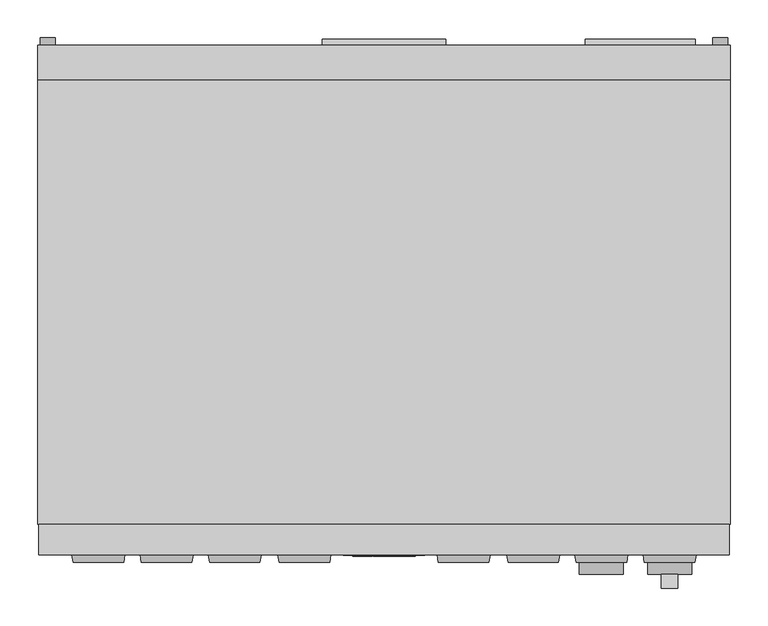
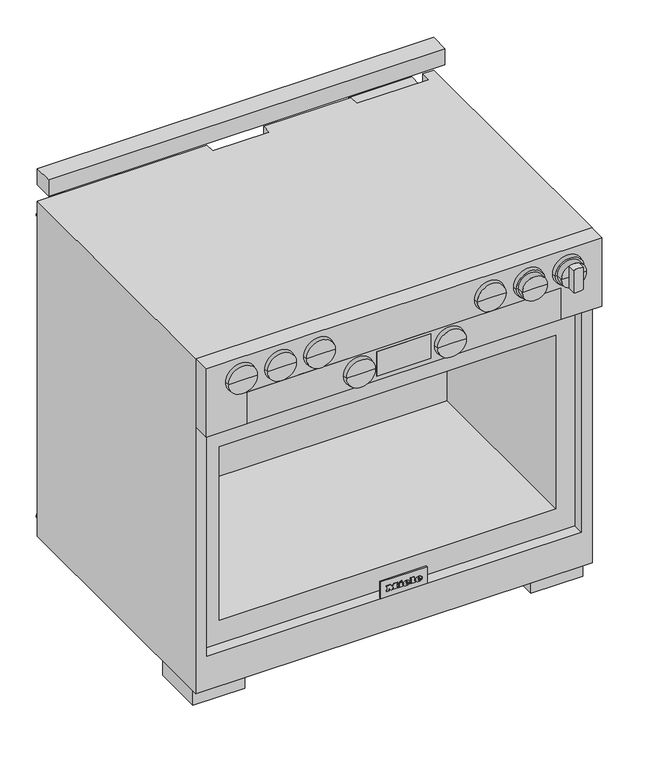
"""IFC4 building model written with IfcOpenShell, lengths in millimetres: proxy geometry, 11791410_USA_HR1134-3G_EDST-CLST : 25113481_USA_11791410_HR1134-3G_EDST-CLST."""

from ifc_helpers import new_model, si_unit, point, frame, frame_2d, origin, origin_with_axes, place, context, project, spatial, polyline, circle_curve, ellipse_curve, trimmed, segment, composite_curve, outline, extrude, faceted_brep, source, transform, mapped, element, save
from ifc_brep_helpers import plane_surface, cylinder_surface, revolved_surface, extruded_surface, advanced_brep


def specialty_equipment_bb1c697a(model_context):
    return source(origin(), model_context, "Body", "SolidModel", [
        advanced_brep(
        [(287.0, -683.0, 813.0), (316.0, -683.0, 813.0), (258.0, -683.0, 813.0), (258.0, -699.0, 813.0), (316.0, -699.0, 813.0), (287.0, -699.0, 813.0)],
        [
            (0, 1),
            (1, 2, circle_curve(frame((287.0, -683.0, 813.0), z_axis=(0.0, 1.0, 0.0), x_axis=(1.0, 0.0, 0.0)), 29.0)),
            (2, 0),
            (2, 1, circle_curve(frame((287.0, -683.0, 813.0), z_axis=(0.0, 1.0, 0.0), x_axis=(1.0, 0.0, 0.0)), 29.0)),
            (3, 4, circle_curve(frame((287.0, -699.0, 813.0), z_axis=(0.0, -1.0, 0.0), x_axis=(1.0, 0.0, 0.0)), 29.0)),
            (4, 5),
            (5, 3),
            (4, 3, circle_curve(frame((287.0, -699.0, 813.0), z_axis=(0.0, -1.0, 0.0), x_axis=(1.0, 0.0, 0.0)), 29.0)),
            (1, 4),
            (3, 2),
        ],
        [
            plane_surface(frame((287.0, -683.0, 813.0), z_axis=(0.0, 1.0, 0.0), x_axis=(1.0, 0.0, 0.0))),
            plane_surface(frame((287.0, -699.0, 813.0), z_axis=(0.0, -1.0, 0.0), x_axis=(1.0, 0.0, 0.0))),
            cylinder_surface(frame((287.0, 751.3738435, 813.0), z_axis=(0.0, 1.0, 0.0), x_axis=(1.0, 0.0, 0.0)), 29.0),
        ],
        [
            (0, [[1, 2, 3]]),
            (0, [[-3, 4, -1]]),
            (1, [[5, 6, 7]]),
            (1, [[8, -7, -6]]),
            (2, [[-2, 9, -5, 10]]),
            (2, [[-4, -10, -8, -9]]),
        ],
    ),
        extrude(outline(composite_curve([segment(polyline([(786.1671843, 388.0), (839.8328157, 388.0)]), True, "CONTINUOUS"), segment(trimmed(circle_curve(frame_2d((813.0, 377.0)), 29.0), [point((839.8328157, 388.0))], [point((839.8328157, 366.0))], False, "CARTESIAN"), True, "CONTINUOUS"), segment(polyline([(839.8328157, 366.0), (786.1671843, 366.0)]), True, "CONTINUOUS"), segment(trimmed(circle_curve(frame_2d((813.0, 377.0)), 29.0), [point((786.1671843, 366.0))], [point((786.1671843, 388.0))], False, "CARTESIAN"), True, "CONTINUOUS")], self_intersect=False)), frame((0.0, -717.0, 0.0), z_axis=(0.0, 1.0, 0.0), x_axis=(0.0, 0.0, 1.0)), (0.0, 0.0, 1.0), 18.0),
        advanced_brep(
        [(377.0, -683.0, 813.0), (406.0, -683.0, 813.0), (348.0, -683.0, 813.0), (348.0, -699.0, 813.0), (406.0, -699.0, 813.0), (377.0, -699.0, 813.0)],
        [
            (0, 1),
            (1, 2, circle_curve(frame((377.0, -683.0, 813.0), z_axis=(0.0, 1.0, 0.0), x_axis=(1.0, 0.0, 0.0)), 29.0)),
            (2, 0),
            (2, 1, circle_curve(frame((377.0, -683.0, 813.0), z_axis=(0.0, 1.0, 0.0), x_axis=(1.0, 0.0, 0.0)), 29.0)),
            (3, 4, circle_curve(frame((377.0, -699.0, 813.0), z_axis=(0.0, -1.0, 0.0), x_axis=(1.0, 0.0, 0.0)), 29.0)),
            (4, 5),
            (5, 3),
            (4, 3, circle_curve(frame((377.0, -699.0, 813.0), z_axis=(0.0, -1.0, 0.0), x_axis=(1.0, 0.0, 0.0)), 29.0)),
            (1, 4),
            (3, 2),
        ],
        [
            plane_surface(frame((377.0, -683.0, 813.0), z_axis=(0.0, 1.0, 0.0), x_axis=(1.0, 0.0, 0.0))),
            plane_surface(frame((377.0, -699.0, 813.0), z_axis=(0.0, -1.0, 0.0), x_axis=(1.0, 0.0, 0.0))),
            cylinder_surface(frame((377.0, 751.3738435, 813.0), z_axis=(0.0, 1.0, 0.0), x_axis=(1.0, 0.0, 0.0)), 29.0),
        ],
        [
            (0, [[1, 2, 3]]),
            (0, [[-3, 4, -1]]),
            (1, [[5, 6, 7]]),
            (1, [[8, -7, -6]]),
            (2, [[-2, 9, -5, 10]]),
            (2, [[-4, -10, -8, -9]]),
        ],
    ),
        extrude(outline(polyline([(-62.5, -671.0), (62.5, -671.0), (62.5, -672.0), (-62.5, -672.0), (-62.5, -671.0)])), frame((0.0, 0.0, 705.0), z_axis=(0.0, 0.0, 1.0), x_axis=(1.0, 0.0, 0.0)), (0.0, 0.0, 1.0), 60.0),
        extrude(outline(polyline([(772.0, 363.0), (772.0, -363.0), (695.0, -363.0), (695.0, 363.0), (772.0, 363.0)]), holes=[polyline([(765.0, 62.5), (705.0, 62.5), (705.0, -62.5), (765.0, -62.5), (765.0, 62.5)])]), frame((0.0, -672.5, 0.0), z_axis=(0.0, 1.0, 0.0), x_axis=(0.0, 0.0, 1.0)), (0.0, 0.0, 1.0), 5.8),
        faceted_brep([(456.0, -673.0, 862.0), (-456.0, -673.0, 862.0), (-456.0, -673.0, 695.0), (-363.0, -673.0, 695.0), (-363.0, -673.0, 772.0), (363.0, -673.0, 772.0), (363.0, -673.0, 695.0), (456.0, -673.0, 695.0), (456.0, -633.0, 862.0), (456.0, -633.0, 695.0), (-456.0, -633.0, 695.0), (-456.0, -633.0, 862.0), (363.0, -666.7, 695.0), (-363.0, -666.7, 695.0), (363.0, -666.7, 772.0), (-363.0, -666.7, 772.0)], [[[0, 1, 2, 3, 4, 5, 6, 7]], [[8, 9, 10, 11]], [[0, 7, 9, 8]], [[10, 9, 7, 6, 12, 13, 3, 2]], [[2, 1, 11, 10]], [[1, 0, 8, 11]], [[14, 15, 13, 12]], [[14, 12, 6, 5]], [[13, 15, 4, 3]], [[15, 14, 5, 4]]]),
        advanced_brep(
        [(-138.2367302, -683.0, 733.0), (-71.7632698, -683.0, 733.0), (-105.0, -683.0, 733.0), (-140.0, -673.0, 733.0), (-70.0, -673.0, 733.0), (-105.0, -673.0, 733.0)],
        [
            (0, 1, circle_curve(frame((-105.0, -683.0, 733.0), z_axis=(0.0, -1.0, 0.0), x_axis=(1.0, 0.0, 0.0)), 33.2367302)),
            (1, 2),
            (2, 0),
            (1, 0, circle_curve(frame((-105.0, -683.0, 733.0), z_axis=(0.0, -1.0, 0.0), x_axis=(1.0, 0.0, 0.0)), 33.2367302)),
            (3, 4, circle_curve(frame((-105.0, -673.0, 733.0), z_axis=(0.0, -1.0, 0.0), x_axis=(1.0, 0.0, 0.0)), 35.0)),
            (4, 1),
            (0, 3),
            (4, 3, circle_curve(frame((-105.0, -673.0, 733.0), z_axis=(0.0, -1.0, 0.0), x_axis=(1.0, 0.0, 0.0)), 35.0)),
            (5, 4),
            (3, 5),
        ],
        [
            plane_surface(frame((-105.0, -683.0, 733.0), z_axis=(0.0, -1.0, 0.0), x_axis=(1.0, 0.0, 0.0))),
            revolved_surface(polyline([(-71.7632698, -683.0, 733.0), (-70.0, -673.0, 733.0)]), (-105.0, 751.3738435, 733.0), (0.0, 1.0, 0.0)),
            plane_surface(frame((-105.0, -673.0, 733.0), z_axis=(0.0, 1.0, 0.0), x_axis=(1.0, 0.0, 0.0))),
        ],
        [
            (0, [[1, 2, 3]]),
            (0, [[4, -3, -2]]),
            (1, [[5, 6, -1, 7]]),
            (1, [[8, -7, -4, -6]]),
            (2, [[9, -5, 10]]),
            (2, [[-10, -8, -9]]),
        ],
    ),
        advanced_brep(
        [(71.7632698, -683.0, 733.0), (138.2367302, -683.0, 733.0), (105.0, -683.0, 733.0), (70.0, -673.0, 733.0), (140.0, -673.0, 733.0), (105.0, -673.0, 733.0)],
        [
            (0, 1, circle_curve(frame((105.0, -683.0, 733.0), z_axis=(0.0, -1.0, 0.0), x_axis=(1.0, 0.0, 0.0)), 33.2367302)),
            (1, 2),
            (2, 0),
            (1, 0, circle_curve(frame((105.0, -683.0, 733.0), z_axis=(0.0, -1.0, 0.0), x_axis=(1.0, 0.0, 0.0)), 33.2367302)),
            (3, 4, circle_curve(frame((105.0, -673.0, 733.0), z_axis=(0.0, -1.0, 0.0), x_axis=(1.0, 0.0, 0.0)), 35.0)),
            (4, 1),
            (0, 3),
            (4, 3, circle_curve(frame((105.0, -673.0, 733.0), z_axis=(0.0, -1.0, 0.0), x_axis=(1.0, 0.0, 0.0)), 35.0)),
            (5, 4),
            (3, 5),
        ],
        [
            plane_surface(frame((105.0, -683.0, 733.0), z_axis=(0.0, -1.0, 0.0), x_axis=(1.0, 0.0, 0.0))),
            revolved_surface(polyline([(138.2367302, -683.0, 733.0), (140.0, -673.0, 733.0)]), (105.0, 751.3738435, 733.0), (0.0, 1.0, 0.0)),
            plane_surface(frame((105.0, -673.0, 733.0), z_axis=(0.0, 1.0, 0.0), x_axis=(1.0, 0.0, 0.0))),
        ],
        [
            (0, [[1, 2, 3]]),
            (0, [[4, -3, -2]]),
            (1, [[5, 6, -1, 7]]),
            (1, [[8, -7, -4, -6]]),
            (2, [[9, -5, 10]]),
            (2, [[-10, -8, -9]]),
        ],
    ),
        advanced_brep(
        [(-230.2367302, -683.0, 813.0), (-163.7632698, -683.0, 813.0), (-197.0, -683.0, 813.0), (-232.0, -673.0, 813.0), (-162.0, -673.0, 813.0), (-197.0, -673.0, 813.0)],
        [
            (0, 1, circle_curve(frame((-197.0, -683.0, 813.0), z_axis=(0.0, -1.0, 0.0), x_axis=(1.0, 0.0, 0.0)), 33.2367302)),
            (1, 2),
            (2, 0),
            (1, 0, circle_curve(frame((-197.0, -683.0, 813.0), z_axis=(0.0, -1.0, 0.0), x_axis=(1.0, 0.0, 0.0)), 33.2367302)),
            (3, 4, circle_curve(frame((-197.0, -673.0, 813.0), z_axis=(0.0, -1.0, 0.0), x_axis=(1.0, 0.0, 0.0)), 35.0)),
            (4, 1),
            (0, 3),
            (4, 3, circle_curve(frame((-197.0, -673.0, 813.0), z_axis=(0.0, -1.0, 0.0), x_axis=(1.0, 0.0, 0.0)), 35.0)),
            (5, 4),
            (3, 5),
        ],
        [
            plane_surface(frame((-197.0, -683.0, 813.0), z_axis=(0.0, -1.0, 0.0), x_axis=(1.0, 0.0, 0.0))),
            revolved_surface(polyline([(-163.7632698, -683.0, 813.0), (-162.0, -673.0, 813.0)]), (-197.0, 751.3738435, 813.0), (0.0, 1.0, 0.0)),
            plane_surface(frame((-197.0, -673.0, 813.0), z_axis=(0.0, 1.0, 0.0), x_axis=(1.0, 0.0, 0.0))),
        ],
        [
            (0, [[1, 2, 3]]),
            (0, [[4, -3, -2]]),
            (1, [[5, 6, -1, 7]]),
            (1, [[8, -7, -4, -6]]),
            (2, [[9, -5, 10]]),
            (2, [[-10, -8, -9]]),
        ],
    ),
        advanced_brep(
        [(-410.2367302, -683.0, 813.0), (-343.7632698, -683.0, 813.0), (-377.0, -683.0, 813.0), (-412.0, -673.0, 813.0), (-342.0, -673.0, 813.0), (-377.0, -673.0, 813.0)],
        [
            (0, 1, circle_curve(frame((-377.0, -683.0, 813.0), z_axis=(0.0, -1.0, 0.0), x_axis=(1.0, 0.0, 0.0)), 33.2367302)),
            (1, 2),
            (2, 0),
            (1, 0, circle_curve(frame((-377.0, -683.0, 813.0), z_axis=(0.0, -1.0, 0.0), x_axis=(1.0, 0.0, 0.0)), 33.2367302)),
            (3, 4, circle_curve(frame((-377.0, -673.0, 813.0), z_axis=(0.0, -1.0, 0.0), x_axis=(1.0, 0.0, 0.0)), 35.0)),
            (4, 1),
            (0, 3),
            (4, 3, circle_curve(frame((-377.0, -673.0, 813.0), z_axis=(0.0, -1.0, 0.0), x_axis=(1.0, 0.0, 0.0)), 35.0)),
            (5, 4),
            (3, 5),
        ],
        [
            plane_surface(frame((-377.0, -683.0, 813.0), z_axis=(0.0, -1.0, 0.0), x_axis=(1.0, 0.0, 0.0))),
            revolved_surface(polyline([(-343.7632698, -683.0, 813.0), (-342.0, -673.0, 813.0)]), (-377.0, 751.3738435, 813.0), (0.0, 1.0, 0.0)),
            plane_surface(frame((-377.0, -673.0, 813.0), z_axis=(0.0, 1.0, 0.0), x_axis=(1.0, 0.0, 0.0))),
        ],
        [
            (0, [[1, 2, 3]]),
            (0, [[4, -3, -2]]),
            (1, [[5, 6, -1, 7]]),
            (1, [[8, -7, -4, -6]]),
            (2, [[9, -5, 10]]),
            (2, [[-10, -8, -9]]),
        ],
    ),
        advanced_brep(
        [(-320.2367302, -683.0, 813.0), (-253.7632698, -683.0, 813.0), (-287.0, -683.0, 813.0), (-322.0, -673.0, 813.0), (-252.0, -673.0, 813.0), (-287.0, -673.0, 813.0)],
        [
            (0, 1, circle_curve(frame((-287.0, -683.0, 813.0), z_axis=(0.0, -1.0, 0.0), x_axis=(1.0, 0.0, 0.0)), 33.2367302)),
            (1, 2),
            (2, 0),
            (1, 0, circle_curve(frame((-287.0, -683.0, 813.0), z_axis=(0.0, -1.0, 0.0), x_axis=(1.0, 0.0, 0.0)), 33.2367302)),
            (3, 4, circle_curve(frame((-287.0, -673.0, 813.0), z_axis=(0.0, -1.0, 0.0), x_axis=(1.0, 0.0, 0.0)), 35.0)),
            (4, 1),
            (0, 3),
            (4, 3, circle_curve(frame((-287.0, -673.0, 813.0), z_axis=(0.0, -1.0, 0.0), x_axis=(1.0, 0.0, 0.0)), 35.0)),
            (5, 4),
            (3, 5),
        ],
        [
            plane_surface(frame((-287.0, -683.0, 813.0), z_axis=(0.0, -1.0, 0.0), x_axis=(1.0, 0.0, 0.0))),
            revolved_surface(polyline([(-253.7632698, -683.0, 813.0), (-252.0, -673.0, 813.0)]), (-287.0, 751.3738435, 813.0), (0.0, 1.0, 0.0)),
            plane_surface(frame((-287.0, -673.0, 813.0), z_axis=(0.0, 1.0, 0.0), x_axis=(1.0, 0.0, 0.0))),
        ],
        [
            (0, [[1, 2, 3]]),
            (0, [[4, -3, -2]]),
            (1, [[5, 6, -1, 7]]),
            (1, [[8, -7, -4, -6]]),
            (2, [[9, -5, 10]]),
            (2, [[-10, -8, -9]]),
        ],
    ),
        advanced_brep(
        [(163.7632698, -683.0, 813.0), (230.2367302, -683.0, 813.0), (197.0, -683.0, 813.0), (162.0, -673.0, 813.0), (232.0, -673.0, 813.0), (197.0, -673.0, 813.0)],
        [
            (0, 1, circle_curve(frame((197.0, -683.0, 813.0), z_axis=(0.0, -1.0, 0.0), x_axis=(1.0, 0.0, 0.0)), 33.2367302)),
            (1, 2),
            (2, 0),
            (1, 0, circle_curve(frame((197.0, -683.0, 813.0), z_axis=(0.0, -1.0, 0.0), x_axis=(1.0, 0.0, 0.0)), 33.2367302)),
            (3, 4, circle_curve(frame((197.0, -673.0, 813.0), z_axis=(0.0, -1.0, 0.0), x_axis=(1.0, 0.0, 0.0)), 35.0)),
            (4, 1),
            (0, 3),
            (4, 3, circle_curve(frame((197.0, -673.0, 813.0), z_axis=(0.0, -1.0, 0.0), x_axis=(1.0, 0.0, 0.0)), 35.0)),
            (5, 4),
            (3, 5),
        ],
        [
            plane_surface(frame((197.0, -683.0, 813.0), z_axis=(0.0, -1.0, 0.0), x_axis=(1.0, 0.0, 0.0))),
            revolved_surface(polyline([(230.2367302, -683.0, 813.0), (232.0, -673.0, 813.0)]), (197.0, 751.3738435, 813.0), (0.0, 1.0, 0.0)),
            plane_surface(frame((197.0, -673.0, 813.0), z_axis=(0.0, 1.0, 0.0), x_axis=(1.0, 0.0, 0.0))),
        ],
        [
            (0, [[1, 2, 3]]),
            (0, [[4, -3, -2]]),
            (1, [[5, 6, -1, 7]]),
            (1, [[8, -7, -4, -6]]),
            (2, [[9, -5, 10]]),
            (2, [[-10, -8, -9]]),
        ],
    ),
        advanced_brep(
        [(253.7632698, -683.0, 813.0), (320.2367302, -683.0, 813.0), (287.0, -683.0, 813.0), (252.0, -673.0, 813.0), (322.0, -673.0, 813.0), (287.0, -673.0, 813.0)],
        [
            (0, 1, circle_curve(frame((287.0, -683.0, 813.0), z_axis=(0.0, -1.0, 0.0), x_axis=(1.0, 0.0, 0.0)), 33.2367302)),
            (1, 2),
            (2, 0),
            (1, 0, circle_curve(frame((287.0, -683.0, 813.0), z_axis=(0.0, -1.0, 0.0), x_axis=(1.0, 0.0, 0.0)), 33.2367302)),
            (3, 4, circle_curve(frame((287.0, -673.0, 813.0), z_axis=(0.0, -1.0, 0.0), x_axis=(1.0, 0.0, 0.0)), 35.0)),
            (4, 1),
            (0, 3),
            (4, 3, circle_curve(frame((287.0, -673.0, 813.0), z_axis=(0.0, -1.0, 0.0), x_axis=(1.0, 0.0, 0.0)), 35.0)),
            (5, 4),
            (3, 5),
        ],
        [
            plane_surface(frame((287.0, -683.0, 813.0), z_axis=(0.0, -1.0, 0.0), x_axis=(1.0, 0.0, 0.0))),
            revolved_surface(polyline([(320.2367302, -683.0, 813.0), (322.0, -673.0, 813.0)]), (287.0, 751.3738435, 813.0), (0.0, 1.0, 0.0)),
            plane_surface(frame((287.0, -673.0, 813.0), z_axis=(0.0, 1.0, 0.0), x_axis=(1.0, 0.0, 0.0))),
        ],
        [
            (0, [[1, 2, 3]]),
            (0, [[4, -3, -2]]),
            (1, [[5, 6, -1, 7]]),
            (1, [[8, -7, -4, -6]]),
            (2, [[9, -5, 10]]),
            (2, [[-10, -8, -9]]),
        ],
    ),
        advanced_brep(
        [(343.7632698, -683.0, 813.0), (410.2367302, -683.0, 813.0), (377.0, -683.0, 813.0), (342.0, -673.0, 813.0), (412.0, -673.0, 813.0), (377.0, -673.0, 813.0)],
        [
            (0, 1, circle_curve(frame((377.0, -683.0, 813.0), z_axis=(0.0, -1.0, 0.0), x_axis=(1.0, 0.0, 0.0)), 33.2367302)),
            (1, 2),
            (2, 0),
            (1, 0, circle_curve(frame((377.0, -683.0, 813.0), z_axis=(0.0, -1.0, 0.0), x_axis=(1.0, 0.0, 0.0)), 33.2367302)),
            (3, 4, circle_curve(frame((377.0, -673.0, 813.0), z_axis=(0.0, -1.0, 0.0), x_axis=(1.0, 0.0, 0.0)), 35.0)),
            (4, 1),
            (0, 3),
            (4, 3, circle_curve(frame((377.0, -673.0, 813.0), z_axis=(0.0, -1.0, 0.0), x_axis=(1.0, 0.0, 0.0)), 35.0)),
            (5, 4),
            (3, 5),
        ],
        [
            plane_surface(frame((377.0, -683.0, 813.0), z_axis=(0.0, -1.0, 0.0), x_axis=(1.0, 0.0, 0.0))),
            revolved_surface(polyline([(410.2367302, -683.0, 813.0), (412.0, -673.0, 813.0)]), (377.0, 751.3738435, 813.0), (0.0, 1.0, 0.0)),
            plane_surface(frame((377.0, -673.0, 813.0), z_axis=(0.0, 1.0, 0.0), x_axis=(1.0, 0.0, 0.0))),
        ],
        [
            (0, [[1, 2, 3]]),
            (0, [[4, -3, -2]]),
            (1, [[5, 6, -1, 7]]),
            (1, [[8, -7, -4, -6]]),
            (2, [[9, -5, 10]]),
            (2, [[-10, -8, -9]]),
        ],
    ),
        extrude(outline(composite_curve([segment(trimmed(circle_curve(frame_2d((822.0, 444.0)), 10.0), [point((822.0, 454.0))], [point((822.0, 434.0))], False, "CARTESIAN"), True, "CONTINUOUS"), segment(trimmed(circle_curve(frame_2d((822.0, 444.0)), 10.0), [point((822.0, 434.0))], [point((822.0, 454.0))], False, "CARTESIAN"), True, "CONTINUOUS")], self_intersect=False)), frame((0.0, 0.0, 0.0), z_axis=(0.0, 1.0, 0.0), x_axis=(0.0, 0.0, 1.0)), (0.0, 0.0, 1.0), 10.0),
        extrude(outline(composite_curve([segment(trimmed(circle_curve(frame_2d((87.0, 444.0)), 10.0), [point((87.0, 454.0))], [point((87.0, 434.0))], False, "CARTESIAN"), True, "CONTINUOUS"), segment(trimmed(circle_curve(frame_2d((87.0, 444.0)), 10.0), [point((87.0, 434.0))], [point((87.0, 454.0))], False, "CARTESIAN"), True, "CONTINUOUS")], self_intersect=False)), frame((0.0, 0.0, 0.0), z_axis=(0.0, 1.0, 0.0), x_axis=(0.0, 0.0, 1.0)), (0.0, 0.0, 1.0), 10.0),
        extrude(outline(composite_curve([segment(trimmed(circle_curve(frame_2d((822.0, -444.0)), 10.0), [point((822.0, -434.0))], [point((822.0, -454.0))], False, "CARTESIAN"), True, "CONTINUOUS"), segment(trimmed(circle_curve(frame_2d((822.0, -444.0)), 10.0), [point((822.0, -454.0))], [point((822.0, -434.0))], False, "CARTESIAN"), True, "CONTINUOUS")], self_intersect=False)), frame((0.0, 0.0, 0.0), z_axis=(0.0, 1.0, 0.0), x_axis=(0.0, 0.0, 1.0)), (0.0, 0.0, 1.0), 10.0),
        extrude(outline(composite_curve([segment(trimmed(circle_curve(frame_2d((87.0, -444.0)), 10.0), [point((87.0, -434.0))], [point((87.0, -454.0))], False, "CARTESIAN"), True, "CONTINUOUS"), segment(trimmed(circle_curve(frame_2d((87.0, -444.0)), 10.0), [point((87.0, -454.0))], [point((87.0, -434.0))], False, "CARTESIAN"), True, "CONTINUOUS")], self_intersect=False)), frame((0.0, 0.0, 0.0), z_axis=(0.0, 1.0, 0.0), x_axis=(0.0, 0.0, 1.0)), (0.0, 0.0, 1.0), 10.0),
        extrude(outline(polyline([(-258.0, 0.0), (170.0, 0.0), (170.0, -39.0), (-258.0, -39.0), (-258.0, 0.0)])), frame((0.0, 0.0, 117.0), z_axis=(0.0, 0.0, 1.0), x_axis=(1.0, 0.0, 0.0)), (0.0, 0.0, 1.0), 15.0),
        extrude(outline(polyline([(284.0, -23.0), (405.0, -23.0), (405.0, -53.0), (284.0, -53.0), (284.0, -23.0)])), frame((0.0, 0.0, 117.0), z_axis=(0.0, 0.0, 1.0), x_axis=(1.0, 0.0, 0.0)), (0.0, 0.0, 1.0), 15.0),
        extrude(outline(polyline([(266.0, 8.0), (411.0, 8.0), (411.0, -23.0), (266.0, -23.0), (266.0, 8.0)])), frame((0.0, 0.0, 742.0), z_axis=(0.0, 0.0, 1.0), x_axis=(1.0, 0.0, 0.0)), (0.0, 0.0, 1.0), 115.0),
        extrude(outline(polyline([(-81.5, 8.0), (81.5, 8.0), (81.5, 0.0), (-81.5, 0.0), (-81.5, 8.0)])), frame((0.0, 0.0, 559.0), z_axis=(0.0, 0.0, 1.0), x_axis=(1.0, 0.0, 0.0)), (0.0, 0.0, 1.0), 237.0),
        extrude(outline(composite_curve([segment(trimmed(circle_curve(frame_2d((-152.0, 39.6862697)), 39.6862697), [point((-112.6710759, 45.0))], [point((-191.3289241, 45.0))], False, "CARTESIAN"), True, "CONTINUOUS"), segment(polyline([(-191.3289241, 45.0), (-112.6710759, 45.0)]), True, "CONTINUOUS")], self_intersect=False)), frame((282.0, 0.0, 0.0), z_axis=(1.0, 0.0, 0.0), x_axis=(0.0, 1.0, 0.0)), (0.0, 0.0, 1.0), 28.0),
        extrude(outline(composite_curve([segment(polyline([(-366.0009008, -40.0), (-367.2635363, -40.0), (-367.0191787, -38.9415709), (-366.8778726, -34.1117735)]), True, "CONTINUOUS"), segment(trimmed(circle_curve(frame_2d((-365.387549, -34.1553762)), 1.4909613), [point((-366.8778726, -34.1117735))], [point((-365.6381402, -32.6856246))], False, "CARTESIAN"), True, "CONTINUOUS"), segment(trimmed(circle_curve(frame_2d((-364.1175682, -37.7832301)), 5.3195602), [point((-365.6381402, -32.6856246))], [point((-362.440667, -32.7348914))], False, "CARTESIAN"), True, "CONTINUOUS"), segment(polyline([(-362.440667, -32.7348914), (-361.3643767, -33.4338425), (-360.8177226, -34.6616478), (-362.0710839, -34.8155412), (-362.6628147, -33.9704619)]), True, "CONTINUOUS"), segment(trimmed(circle_curve(frame_2d((-363.889909, -36.6278559)), 2.9270297), [point((-362.6628147, -33.9704619))], [point((-365.335883, -34.0829271))], True, "CARTESIAN"), True, "CONTINUOUS"), segment(polyline([(-365.335883, -34.0829271), (-365.6819155, -35.289686), (-362.4250607, -35.9227545)]), True, "CONTINUOUS"), segment(trimmed(circle_curve(frame_2d((-362.8373847, -38.0439776)), 2.1609254), [point((-362.4250607, -35.9227545))], [point((-361.2872437, -39.5495212))], False, "CARTESIAN"), True, "CONTINUOUS"), segment(trimmed(circle_curve(frame_2d((-363.2230106, -36.6941434)), 3.4496922), [point((-361.2872437, -39.5495212))], [point((-364.4810512, -39.9062626))], False, "CARTESIAN"), True, "CONTINUOUS"), segment(polyline([(-364.4810512, -39.9062626), (-365.6943945, -39.0566705), (-366.0009008, -40.0)]), True, "CONTINUOUS")], self_intersect=False), holes=[composite_curve([segment(polyline([(-365.6808047, -36.7241112), (-365.4778117, -37.8753414), (-364.6808418, -38.5929363), (-363.3846505, -38.8921857)]), True, "CONTINUOUS"), segment(trimmed(circle_curve(frame_2d((-363.1641539, -37.9371101)), 0.980198), [point((-363.3846505, -38.8921857))], [point((-362.5826105, -37.148063))], True, "CARTESIAN"), True, "CONTINUOUS"), segment(polyline([(-362.5826105, -37.148063), (-363.683896, -36.9339948), (-365.6808047, -36.7241112)]), True, "CONTINUOUS")], self_intersect=False)]), frame((0.0, 0.0, 753.0), z_axis=(0.0, 0.0, 1.0), x_axis=(1.0, 0.0, 0.0)), (0.0, 0.0, 1.0), 1.0),
        extrude(outline(composite_curve([segment(polyline([(-369.4581842, -37.6489066), (-368.202206, -37.8031213), (-369.1593436, -39.5606642)]), True, "CONTINUOUS"), segment(trimmed(circle_curve(frame_2d((-371.3057471, -36.6354063)), 3.6282478), [point((-369.1593436, -39.5606642))], [point((-372.8962663, -39.8964538))], False, "CARTESIAN"), True, "CONTINUOUS"), segment(trimmed(circle_curve(frame_2d((-371.7731504, -37.593725)), 2.5620205), [point((-372.8962663, -39.8964538))], [point((-374.32893, -37.7724425))], False, "CARTESIAN"), True, "CONTINUOUS"), segment(trimmed(circle_curve(frame_2d((-372.617737, -37.6527843)), 1.7153715), [point((-374.32893, -37.7724425))], [point((-373.147816, -36.021369))], False, "CARTESIAN"), True, "CONTINUOUS"), segment(polyline([(-373.147816, -36.021369), (-371.3069947, -35.4232499), (-369.987673, -33.9770867)]), True, "CONTINUOUS"), segment(trimmed(circle_curve(frame_2d((-371.1408399, -36.351197)), 2.6393548), [point((-369.987673, -33.9770867))], [point((-372.2940069, -33.9770867))], True, "CARTESIAN"), True, "CONTINUOUS"), segment(polyline([(-372.2940069, -33.9770867), (-372.7553884, -34.6611129), (-374.0084996, -34.5072502), (-373.5756304, -33.3795875)]), True, "CONTINUOUS"), segment(trimmed(circle_curve(frame_2d((-370.9527143, -36.6576461)), 4.1982564), [point((-373.5756304, -33.3795875))], [point((-371.0505395, -32.4605295))], False, "CARTESIAN"), True, "CONTINUOUS"), segment(trimmed(circle_curve(frame_2d((-370.9805679, -35.4626064)), 3.0028922), [point((-371.0505395, -32.4605295))], [point((-368.5718203, -33.6694816))], False, "CARTESIAN"), True, "CONTINUOUS"), segment(trimmed(circle_curve(frame_2d((-370.4380028, -34.5301363)), 2.0550823), [point((-368.5718203, -33.6694816))], [point((-369.4341096, -36.323335))], False, "CARTESIAN"), True, "CONTINUOUS"), segment(polyline([(-369.4341096, -36.323335), (-371.3494535, -36.9828408), (-373.0597255, -37.9076387), (-372.6768706, -38.6156702)]), True, "CONTINUOUS"), segment(trimmed(circle_curve(frame_2d((-371.3695779, -35.6018954)), 3.2850956), [point((-372.6768706, -38.6156702))], [point((-370.0622852, -38.6156702))], True, "CARTESIAN"), True, "CONTINUOUS"), segment(polyline([(-370.0622852, -38.6156702), (-369.4581842, -37.6489066)]), True, "CONTINUOUS")], self_intersect=False)), frame((0.0, 0.0, 753.0), z_axis=(0.0, 0.0, 1.0), x_axis=(1.0, 0.0, 0.0)), (0.0, 0.0, 1.0), 1.0),
        extrude(outline(composite_curve([segment(polyline([(-359.0941465, -34.8216074), (-355.0193946, -34.8216074), (-355.0193946, -36.0727848), (-357.8300756, -36.0727848), (-357.8300756, -37.8953779), (-356.5547934, -38.5734575), (-354.8554891, -38.8730907)]), True, "CONTINUOUS"), segment(trimmed(circle_curve(frame_2d((-354.7763582, -35.1835188)), 3.6904203), [point((-354.8554891, -38.8730907))], [point((-351.0917956, -34.975672))], True, "CARTESIAN"), True, "CONTINUOUS"), segment(trimmed(circle_curve(frame_2d((-355.2742118, -35.2116028)), 4.1890654), [point((-351.0917956, -34.975672))], [point((-354.8924604, -31.0399683))], True, "CARTESIAN"), True, "CONTINUOUS"), segment(trimmed(circle_curve(frame_2d((-355.1434541, -33.7827322)), 2.7542243), [point((-354.8924604, -31.0399683))], [point((-357.2311401, -31.9862582))], True, "CARTESIAN"), True, "CONTINUOUS"), segment(polyline([(-357.2311401, -31.9862582), (-357.7913432, -33.1348449), (-358.9545959, -32.808521), (-358.2222817, -31.1459412)]), True, "CONTINUOUS"), segment(trimmed(circle_curve(frame_2d((-355.0056573, -34.3038983)), 4.5077007), [point((-358.2222817, -31.1459412))], [point((-354.8478593, -29.7989604))], False, "CARTESIAN"), True, "CONTINUOUS"), segment(trimmed(circle_curve(frame_2d((-355.0297107, -35.0029797)), 5.2071956), [point((-354.8478593, -29.7989604))], [point((-349.8225151, -35.0029797))], False, "CARTESIAN"), True, "CONTINUOUS"), segment(trimmed(circle_curve(frame_2d((-355.0187023, -34.9634409)), 5.1963376), [point((-349.8225151, -35.0029797))], [point((-355.0187023, -40.1597785))], False, "CARTESIAN"), True, "CONTINUOUS"), segment(polyline([(-355.0187023, -40.1597785), (-357.0821579, -39.7823822), (-359.0941465, -38.5734575), (-359.0941465, -34.8216074)]), True, "CONTINUOUS")], self_intersect=False)), frame((0.0, 0.0, 753.0), z_axis=(0.0, 0.0, 1.0), x_axis=(1.0, 0.0, 0.0)), (0.0, 0.0, 1.0), 1.0),
        extrude(outline(polyline([(246.4261097, -48.2846028), (239.1553153, -48.2846028), (239.1553153, -47.0259878), (245.1324687, -47.0259878), (245.1324687, -44.0398896), (239.4699511, -44.0398896), (239.4699511, -42.7868997), (245.1324687, -42.7868997), (245.1324687, -39.484481), (239.0234692, -39.484481), (239.0234692, -38.223126), (246.4261097, -38.223126), (246.4261097, -48.2846028)])), frame((0.0, 0.0, 101.0), z_axis=(0.0, 0.0, 1.0), x_axis=(1.0, 0.0, 0.0)), (0.0, 0.0, 1.0), 1.0),
        extrude(outline(polyline([(237.0939455, -48.2781045), (230.9083542, -48.2781045), (230.9083542, -47.0259878), (235.9083542, -47.0259878), (235.9083542, -38.223126), (237.0939455, -38.223126), (237.0939455, -48.2781045)])), frame((0.0, 0.0, 101.0), z_axis=(0.0, 0.0, 1.0), x_axis=(1.0, 0.0, 0.0)), (0.0, 0.0, 1.0), 1.0),
        extrude(outline(composite_curve([segment(trimmed(circle_curve(frame_2d((239.0, -44.0)), 7.5), [point((239.0, -51.5))], [point((239.0, -36.5))], False, "CARTESIAN"), True, "CONTINUOUS"), segment(trimmed(circle_curve(frame_2d((239.0, -44.0)), 7.5), [point((239.0, -36.5))], [point((239.0, -51.5))], False, "CARTESIAN"), True, "CONTINUOUS")], self_intersect=False)), frame((0.0, 0.0, 102.0), z_axis=(0.0, 0.0, 1.0), x_axis=(1.0, 0.0, 0.0)), (0.0, 0.0, 1.0), 30.0),
        extrude(outline(composite_curve([segment(trimmed(circle_curve(frame_2d((-362.0, -35.0)), 7.5), [point((-369.5, -35.0))], [point((-354.5, -35.0))], False, "CARTESIAN"), True, "CONTINUOUS"), segment(trimmed(circle_curve(frame_2d((-362.0, -35.0)), 7.5), [point((-354.5, -35.0))], [point((-369.5, -35.0))], False, "CARTESIAN"), True, "CONTINUOUS")], self_intersect=False)), frame((0.0, 0.0, 754.0), z_axis=(0.0, 0.0, 1.0), x_axis=(1.0, 0.0, 0.0)), (0.0, 0.0, 1.0), 30.0),
        faceted_brep([(-457.0, 0.0, 862.0), (-457.0, -633.0, 862.0), (457.0, -633.0, 862.0), (457.0, 0.0, 862.0), (432.0, 0.0, 862.0), (432.0, -23.0, 862.0), (266.0, -23.0, 862.0), (266.0, 0.0, 862.0), (65.0, 0.0, 862.0), (65.0, -23.0, 862.0), (-66.0, -23.0, 862.0), (-66.0, 0.0, 862.0), (457.0, 0.0, 45.0), (457.0, -633.0, 45.0), (-457.0, -633.0, 45.0), (-457.0, 0.0, 45.0), (-432.0, 0.0, 45.0), (-432.0, -75.0, 45.0), (432.0, -75.0, 45.0), (432.0, 0.0, 45.0), (266.0, 0.0, 132.0), (65.0, 0.0, 132.0), (-66.0, 0.0, 132.0), (-270.0, 0.0, 132.0), (-270.0, 0.0, 784.0), (-411.0, 0.0, 784.0), (-411.0, 0.0, 132.0), (-432.0, 0.0, 132.0), (432.0, -633.0, 695.0), (432.0, -633.0, 128.0), (-432.0, -633.0, 128.0), (-432.0, -633.0, 695.0), (432.0, -608.0, 695.0), (-432.0, -608.0, 695.0), (-432.0, -608.0, 128.0), (432.0, -608.0, 128.0), (388.0, -608.0, 608.0), (388.0, -608.0, 185.0), (-388.0, -608.0, 185.0), (-388.0, -608.0, 608.0), (388.0, -173.0, 608.0), (-388.0, -173.0, 608.0), (-388.0, -173.0, 185.0), (388.0, -173.0, 185.0), (432.0, -23.0, 132.0), (266.0, -23.0, 132.0), (65.0, -23.0, 132.0), (-66.0, -23.0, 132.0), (432.0, -75.0, 132.0), (-411.0, -69.0, 784.0), (-270.0, -69.0, 784.0), (-270.0, -69.0, 132.0), (-411.0, -69.0, 132.0), (-432.0, -75.0, 132.0)], [[[0, 1, 2, 3, 4, 5, 6, 7, 8, 9, 10, 11]], [[12, 13, 14, 15, 16, 17, 18, 19]], [[8, 7, 20, 21]], [[3, 12, 19, 4]], [[15, 0, 11, 22, 23, 24, 25, 26, 27, 16]], [[1, 0, 15, 14]], [[2, 1, 14, 13], [28, 29, 30, 31]], [[3, 2, 13, 12]], [[32, 33, 34, 35], [36, 37, 38, 39]], [[32, 35, 29, 28]], [[35, 34, 30, 29]], [[34, 33, 31, 30]], [[33, 32, 28, 31]], [[40, 41, 42, 43]], [[40, 43, 37, 36]], [[43, 42, 38, 37]], [[42, 41, 39, 38]], [[41, 40, 36, 39]], [[6, 5, 44, 45]], [[10, 9, 46, 47]], [[9, 8, 21, 46]], [[11, 10, 47, 22]], [[5, 4, 19, 18, 48, 44]], [[7, 6, 45, 20]], [[49, 50, 51, 52]], [[50, 49, 25, 24]], [[50, 24, 23, 51]], [[25, 49, 52, 26]], [[53, 48, 18, 17]], [[27, 53, 17, 16]], [[48, 53, 27, 26, 52, 51, 23, 22, 47, 46, 21, 20, 45, 44]]]),
        extrude(outline(composite_curve([segment(trimmed(circle_curve(frame_2d((-152.0, 39.6862697)), 39.6862697), [point((-112.6710759, 45.0))], [point((-191.3289241, 45.0))], False, "CARTESIAN"), True, "CONTINUOUS"), segment(polyline([(-191.3289241, 45.0), (-112.6710759, 45.0)]), True, "CONTINUOUS")], self_intersect=False)), frame((-310.0, 0.0, 0.0), z_axis=(1.0, 0.0, 0.0), x_axis=(0.0, 1.0, 0.0)), (0.0, 0.0, 1.0), 28.0),
        extrude(outline(polyline([(-330.0, -489.0), (-330.0, -609.0), (-450.0, -609.0), (-450.0, -489.0), (-330.0, -489.0)])), origin_with_axes(), (0.0, 0.0, 1.0), 45.0),
        extrude(outline(polyline([(450.0, -489.0), (450.0, -609.0), (330.0, -609.0), (330.0, -489.0), (450.0, -489.0)])), origin_with_axes(), (0.0, 0.0, 1.0), 45.0),
        advanced_brep(
        [(32.17, -675.0, 177.1995), (32.17, -675.0, 178.563), (41.2015, -675.0, 178.563), (25.4875, -675.0, 178.563), (29.2, -675.0, 174.0), (40.972, -675.0, 177.1995), (36.895, -675.0, 177.1995), (33.682, -675.0, 175.6875), (32.17, -675.0, 180.291), (32.17, -675.0, 181.7625), (34.4785, -675.0, 181.7625), (34.4785, -675.0, 180.291), (32.17, -674.0, 177.1995), (33.682, -674.0, 175.6875), (36.895, -674.0, 177.1995), (40.972, -674.0, 177.1995), (29.2, -674.0, 174.0), (25.4875, -674.0, 178.563), (41.2015, -674.0, 178.563), (32.17, -674.0, 178.563), (32.17, -674.0, 180.291), (34.4785, -674.0, 180.291), (34.4785, -674.0, 181.7625), (32.17, -674.0, 181.7625)],
        [
            (0, 1),
            (1, 2),
            (2, 3, ellipse_curve(frame((33.3445, -675.0, 178.563), z_axis=(0.0, -1.0, 0.0), x_axis=(-1.0, 0.0, 0.0)), 7.857, 6.4935)),
            (3, 4, circle_curve(frame((30.7120736, -675.0, 179.022), z_axis=(0.0, -1.0, 0.0), x_axis=(0.0, 0.0, -1.0)), 5.2446974)),
            (4, 5, circle_curve(frame((33.1872142, -675.0, 182.586), z_axis=(0.0, -1.0, 0.0), x_axis=(0.0, 0.0, -1.0)), 9.46664)),
            (5, 6),
            (6, 7, circle_curve(frame((34.3419118, -675.0, 178.455), z_axis=(0.0, 1.0, 0.0), x_axis=(0.0, 0.0, -1.0)), 2.8450905)),
            (7, 0, circle_curve(frame((33.682, -675.0, 177.1995), z_axis=(0.0, 1.0, 0.0), x_axis=(0.0, 0.0, -1.0)), 1.512)),
            (8, 9),
            (9, 10, circle_curve(frame((33.32425, -675.0, 181.7625), z_axis=(0.0, 1.0, 0.0), x_axis=(0.0, 0.0, -1.0)), 1.15425)),
            (10, 11),
            (11, 8),
            (12, 13, circle_curve(frame((33.682, -674.0, 177.1995), z_axis=(0.0, -1.0, 0.0), x_axis=(0.0, 0.0, -1.0)), 1.512)),
            (13, 14, circle_curve(frame((34.3419118, -674.0, 178.455), z_axis=(0.0, -1.0, 0.0), x_axis=(0.0, 0.0, -1.0)), 2.8450905)),
            (14, 15),
            (15, 16, circle_curve(frame((33.1872142, -674.0, 182.586), z_axis=(0.0, 1.0, 0.0), x_axis=(0.0, 0.0, -1.0)), 9.46664)),
            (16, 17, circle_curve(frame((30.7120736, -674.0, 179.022), z_axis=(0.0, 1.0, 0.0), x_axis=(0.0, 0.0, -1.0)), 5.2446974)),
            (17, 18, ellipse_curve(frame((33.3445, -674.0, 178.563), z_axis=(0.0, 1.0, 0.0), x_axis=(-1.0, 0.0, 0.0)), 7.857, 6.4935)),
            (18, 19),
            (19, 12),
            (20, 21),
            (21, 22),
            (22, 23, circle_curve(frame((33.32425, -674.0, 181.7625), z_axis=(0.0, -1.0, 0.0), x_axis=(0.0, 0.0, -1.0)), 1.15425)),
            (23, 20),
            (0, 12),
            (19, 1),
            (18, 2),
            (5, 15),
            (14, 6),
            (17, 3),
            (13, 7),
            (16, 4),
            (8, 20),
            (23, 9),
            (22, 10),
            (21, 11),
        ],
        [
            plane_surface(frame((32.17, -675.0, 178.563), z_axis=(0.0, -1.0, 0.0), x_axis=(0.0, 0.0, 1.0))),
            plane_surface(frame((32.17, -674.0, 178.563), z_axis=(0.0, 1.0, 0.0), x_axis=(0.0, 0.0, -1.0))),
            plane_surface(frame((32.17, -675.0, 177.1995), z_axis=(1.0, 0.0, 0.0), x_axis=(0.0, 1.0, 0.0))),
            plane_surface(frame((32.17, -675.0, 178.563), z_axis=(0.0, 0.0, -1.0), x_axis=(0.0, 1.0, 0.0))),
            plane_surface(frame((40.972, -675.0, 177.1995), z_axis=(0.0, 0.0, 1.0), x_axis=(0.0, 1.0, 0.0))),
            extruded_surface(trimmed(ellipse_curve(frame((33.3445, -673.0, 178.563), z_axis=(0.0, -1.0, 0.0), x_axis=(-1.0, 0.0, 0.0)), 7.857, 6.4935), [point((41.2015, -673.0, 178.563))], [point((25.4875, -673.0, 178.563))], True, "CARTESIAN"), (0.0, -1.0, 0.0), 1.0),
            revolved_surface(polyline([(34.3419118, -674.0, 175.60990950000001), (34.3419118, -675.0, 175.60990950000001)]), (34.3419118, -674.0, 178.455), (0.0, 1.0, 0.0)),
            revolved_surface(polyline([(33.682, -674.0, 175.6875), (33.682, -675.0, 175.6875)]), (33.682, -674.0, 177.1995), (0.0, 1.0, 0.0)),
            cylinder_surface(frame((30.7120736, -674.0, 179.022), z_axis=(0.0, -1.0, 0.0), x_axis=(0.0, 0.0, -1.0)), 5.2446974),
            cylinder_surface(frame((33.1872142, -674.0, 182.586), z_axis=(0.0, -1.0, 0.0), x_axis=(0.0, 0.0, -1.0)), 9.46664),
            plane_surface(frame((32.17, -675.0, 180.291), z_axis=(1.0, 0.0, 0.0), x_axis=(0.0, 1.0, 0.0))),
            revolved_surface(polyline([(33.32425, -674.0, 180.60825), (33.32425, -675.0, 180.60825)]), (33.32425, -674.0, 181.7625), (0.0, 1.0, 0.0)),
            plane_surface(frame((34.4785, -675.0, 181.7625), z_axis=(-1.0, 0.0, 0.0), x_axis=(0.0, 1.0, 0.0))),
            plane_surface(frame((34.4785, -675.0, 180.291), z_axis=(0.0, 0.0, 1.0), x_axis=(0.0, 1.0, 0.0))),
        ],
        [
            (0, [[1, 2, 3, 4, 5, 6, 7, 8], [9, 10, 11, 12]]),
            (1, [[13, 14, 15, 16, 17, 18, 19, 20], [21, 22, 23, 24]]),
            (2, [[-1, 25, -20, 26]]),
            (3, [[-2, -26, -19, 27]]),
            (4, [[-6, 28, -15, 29]]),
            (5, [[-3, -27, -18, 30]]),
            (6, [[-7, -29, -14, 31]]),
            (7, [[-8, -31, -13, -25]]),
            (8, [[-4, -30, -17, 32]]),
            (9, [[-5, -32, -16, -28]]),
            (10, [[-9, 33, -24, 34]]),
            (11, [[-10, -34, -23, 35]]),
            (12, [[-11, -35, -22, 36]]),
            (13, [[-12, -36, -21, -33]]),
        ],
    ),
        advanced_brep(
        [(3.9955, -675.0, 177.1995), (3.9955, -675.0, 178.563), (13.027, -675.0, 178.563), (-2.687, -675.0, 178.563), (1.0255, -675.0, 174.0), (12.7975, -675.0, 177.1995), (8.7205, -675.0, 177.1995), (5.5075, -675.0, 175.6875), (3.9955, -675.0, 180.291), (3.9955, -675.0, 181.7625), (6.304, -675.0, 181.7625), (6.304, -675.0, 180.291), (3.9955, -674.0, 177.1995), (5.5075, -674.0, 175.6875), (8.7205, -674.0, 177.1995), (12.7975, -674.0, 177.1995), (1.0255, -674.0, 174.0), (-2.687, -674.0, 178.563), (13.027, -674.0, 178.563), (3.9955, -674.0, 178.563), (3.9955, -674.0, 180.291), (6.304, -674.0, 180.291), (6.304, -674.0, 181.7625), (3.9955, -674.0, 181.7625)],
        [
            (0, 1),
            (1, 2),
            (2, 3, ellipse_curve(frame((5.17, -675.0, 178.563), z_axis=(0.0, -1.0, 0.0), x_axis=(-1.0, 0.0, 0.0)), 7.857, 6.4935)),
            (3, 4, circle_curve(frame((2.5375736, -675.0, 179.022), z_axis=(0.0, -1.0, 0.0), x_axis=(0.0, 0.0, -1.0)), 5.2446974)),
            (4, 5, circle_curve(frame((5.0127142, -675.0, 182.586), z_axis=(0.0, -1.0, 0.0), x_axis=(0.0, 0.0, -1.0)), 9.46664)),
            (5, 6),
            (6, 7, circle_curve(frame((6.1674118, -675.0, 178.455), z_axis=(0.0, 1.0, 0.0), x_axis=(0.0, 0.0, -1.0)), 2.8450905)),
            (7, 0, circle_curve(frame((5.5075, -675.0, 177.1995), z_axis=(0.0, 1.0, 0.0), x_axis=(0.0, 0.0, -1.0)), 1.512)),
            (8, 9),
            (9, 10, circle_curve(frame((5.14975, -675.0, 181.7625), z_axis=(0.0, 1.0, 0.0), x_axis=(0.0, 0.0, -1.0)), 1.15425)),
            (10, 11),
            (11, 8),
            (12, 13, circle_curve(frame((5.5075, -674.0, 177.1995), z_axis=(0.0, -1.0, 0.0), x_axis=(0.0, 0.0, -1.0)), 1.512)),
            (13, 14, circle_curve(frame((6.1674118, -674.0, 178.455), z_axis=(0.0, -1.0, 0.0), x_axis=(0.0, 0.0, -1.0)), 2.8450905)),
            (14, 15),
            (15, 16, circle_curve(frame((5.0127142, -674.0, 182.586), z_axis=(0.0, 1.0, 0.0), x_axis=(0.0, 0.0, -1.0)), 9.46664)),
            (16, 17, circle_curve(frame((2.5375736, -674.0, 179.022), z_axis=(0.0, 1.0, 0.0), x_axis=(0.0, 0.0, -1.0)), 5.2446974)),
            (17, 18, ellipse_curve(frame((5.17, -674.0, 178.563), z_axis=(0.0, 1.0, 0.0), x_axis=(-1.0, 0.0, 0.0)), 7.857, 6.4935)),
            (18, 19),
            (19, 12),
            (20, 21),
            (21, 22),
            (22, 23, circle_curve(frame((5.14975, -674.0, 181.7625), z_axis=(0.0, -1.0, 0.0), x_axis=(0.0, 0.0, -1.0)), 1.15425)),
            (23, 20),
            (0, 12),
            (19, 1),
            (18, 2),
            (5, 15),
            (14, 6),
            (17, 3),
            (13, 7),
            (16, 4),
            (8, 20),
            (23, 9),
            (22, 10),
            (21, 11),
        ],
        [
            plane_surface(frame((3.9955, -675.0, 178.563), z_axis=(0.0, -1.0, 0.0), x_axis=(0.0, 0.0, 1.0))),
            plane_surface(frame((3.9955, -674.0, 178.563), z_axis=(0.0, 1.0, 0.0), x_axis=(0.0, 0.0, -1.0))),
            plane_surface(frame((3.9955, -675.0, 177.1995), z_axis=(1.0, 0.0, 0.0), x_axis=(0.0, 1.0, 0.0))),
            plane_surface(frame((3.9955, -675.0, 178.563), z_axis=(0.0, 0.0, -1.0), x_axis=(0.0, 1.0, 0.0))),
            plane_surface(frame((12.7975, -675.0, 177.1995), z_axis=(0.0, 0.0, 1.0), x_axis=(0.0, 1.0, 0.0))),
            extruded_surface(trimmed(ellipse_curve(frame((5.17, -673.0, 178.563), z_axis=(0.0, -1.0, 0.0), x_axis=(-1.0, 0.0, 0.0)), 7.857, 6.4935), [point((13.027, -673.0, 178.563))], [point((-2.687, -673.0, 178.563))], True, "CARTESIAN"), (0.0, -1.0, 0.0), 1.0),
            revolved_surface(polyline([(6.1674118, -674.0, 175.60990950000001), (6.1674118, -675.0, 175.60990950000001)]), (6.1674118, -674.0, 178.455), (0.0, 1.0, 0.0)),
            revolved_surface(polyline([(5.5075, -674.0, 175.6875), (5.5075, -675.0, 175.6875)]), (5.5075, -674.0, 177.1995), (0.0, 1.0, 0.0)),
            cylinder_surface(frame((2.5375736, -674.0, 179.022), z_axis=(0.0, -1.0, 0.0), x_axis=(0.0, 0.0, -1.0)), 5.2446974),
            cylinder_surface(frame((5.0127142, -674.0, 182.586), z_axis=(0.0, -1.0, 0.0), x_axis=(0.0, 0.0, -1.0)), 9.46664),
            plane_surface(frame((3.9955, -675.0, 180.291), z_axis=(1.0, 0.0, 0.0), x_axis=(0.0, 1.0, 0.0))),
            revolved_surface(polyline([(5.14975, -674.0, 180.60825), (5.14975, -675.0, 180.60825)]), (5.14975, -674.0, 181.7625), (0.0, 1.0, 0.0)),
            plane_surface(frame((6.304, -675.0, 181.7625), z_axis=(-1.0, 0.0, 0.0), x_axis=(0.0, 1.0, 0.0))),
            plane_surface(frame((6.304, -675.0, 180.291), z_axis=(0.0, 0.0, 1.0), x_axis=(0.0, 1.0, 0.0))),
        ],
        [
            (0, [[1, 2, 3, 4, 5, 6, 7, 8], [9, 10, 11, 12]]),
            (1, [[13, 14, 15, 16, 17, 18, 19, 20], [21, 22, 23, 24]]),
            (2, [[-1, 25, -20, 26]]),
            (3, [[-2, -26, -19, 27]]),
            (4, [[-6, 28, -15, 29]]),
            (5, [[-3, -27, -18, 30]]),
            (6, [[-7, -29, -14, 31]]),
            (7, [[-8, -31, -13, -25]]),
            (8, [[-4, -30, -17, 32]]),
            (9, [[-5, -32, -16, -28]]),
            (10, [[-9, 33, -24, 34]]),
            (11, [[-10, -34, -23, 35]]),
            (12, [[-11, -35, -22, 36]]),
            (13, [[-12, -36, -21, -33]]),
        ],
    ),
        extrude(outline(polyline([(186.7035, -10.76), (184.5165, -9.734), (186.6495, -5.1575), (188.8365, -6.17), (186.7035, -10.76)])), frame((0.0, -675.0, 0.0), z_axis=(0.0, 1.0, 0.0), x_axis=(0.0, 0.0, 1.0)), (0.0, 0.0, 1.0), 1.0),
        extrude(outline(polyline([(184.2195, -14.0945), (181.803, -14.0945), (181.803, -12.488), (176.268, -12.488), (176.268, -14.0945), (174.0, -14.0945), (174.0, -3.443), (176.268, -3.443), (176.268, -5.009), (184.2195, -5.009), (184.2195, -14.0945)])), frame((0.0, -675.0, 0.0), z_axis=(0.0, 1.0, 0.0), x_axis=(0.0, 0.0, 1.0)), (0.0, 0.0, 1.0), 1.0),
        extrude(outline(polyline([(185.2995, 13.783), (185.2995, 15.403), (176.268, 15.403), (176.268, 13.783), (174.0, 13.783), (174.0, 24.7315), (176.268, 24.7315), (176.268, 23.071), (187.5, 23.071), (187.5, 13.783), (185.2995, 13.783)])), frame((0.0, -675.0, 0.0), z_axis=(0.0, 1.0, 0.0), x_axis=(0.0, 0.0, 1.0)), (0.0, 0.0, 1.0), 1.0),
        extrude(outline(polyline([(185.2995, -41.0), (185.2995, -39.3665), (176.268, -39.3665), (176.268, -41.0), (174.0, -41.0), (174.0, -35.06), (176.268, -35.06), (176.268, -36.68), (181.9756247, -36.68), (174.0, -30.6455), (182.2527223, -24.584), (176.268, -24.584), (176.268, -26.2445), (174.0, -26.2445), (174.0, -15.4715), (176.268, -15.4715), (176.268, -17.186), (185.2995, -17.186), (185.2995, -15.4715), (187.5, -15.4715), (187.5, -23.693), (182.4375, -27.635), (187.5, -31.5905), (187.5, -41.0), (185.2995, -41.0)])), frame((0.0, -675.0, 0.0), z_axis=(0.0, 1.0, 0.0), x_axis=(0.0, 0.0, 1.0)), (0.0, 0.0, 1.0), 1.0),
        extrude(outline(polyline([(457.0, 0.0), (457.0, -45.0), (-457.0, -45.0), (-457.0, 0.0), (457.0, 0.0)])), frame((0.0, 0.0, 902.0), z_axis=(0.0, 0.0, 1.0), x_axis=(1.0, 0.0, 0.0)), (0.0, 0.0, 1.0), 40.0),
        extrude(outline(composite_curve([segment(polyline([(-670.0, 160.0), (-673.5, 160.0)]), True, "CONTINUOUS"), segment(trimmed(circle_curve(frame_2d((-464.0137328, 180.5)), 210.4869263), [point((-673.5, 160.0))], [point((-673.5, 201.0))], False, "CARTESIAN"), True, "CONTINUOUS"), segment(polyline([(-673.5, 201.0), (-670.0, 201.0), (-670.0, 160.0)]), True, "CONTINUOUS")], self_intersect=False)), frame((-53.5, 0.0, 0.0), z_axis=(1.0, 0.0, 0.0), x_axis=(0.0, 1.0, 0.0)), (0.0, 0.0, 1.0), 107.0),
    ])


if __name__ == "__main__":
    model = new_model("IFC4")
    model_context = context("Model", 3, world=origin())
    ifc_project = project(units=[si_unit("LENGTHUNIT", "METRE", prefix="MILLI")], contexts=[model_context])
    site = spatial("IfcSite", under=ifc_project)
    building = spatial("IfcBuilding", under=site)
    placement = place(None, origin())
    specialty_equipment_shape = specialty_equipment_bb1c697a(model_context)
    element("IfcBuildingElementProxy", 1, Name="11791410_USA_HR1134-3G_EDST-CLST : 25113481_USA_11791410_HR1134-3G_EDST-CLST", ObjectType="11791410_USA_HR1134-3G_EDST-CLST : 25113481_USA_11791410_HR1134-3G_EDST-CLST", at=placement, inside=building, context=model_context, shape_type="MappedRepresentation", body=[
        mapped(specialty_equipment_shape, transform((0.0, 0.0, 0.0), x_axis=(1.0, 0.0, 0.0), y_axis=(0.0, 1.0, 0.0), z_axis=(0.0, 0.0, 1.0))),
    ])
    save(model, "model.ifc")
